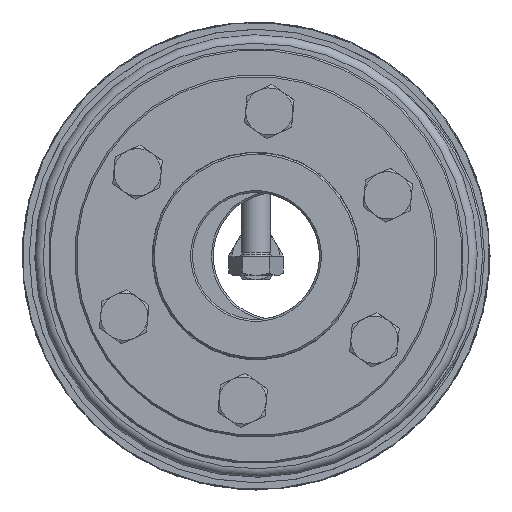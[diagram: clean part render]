
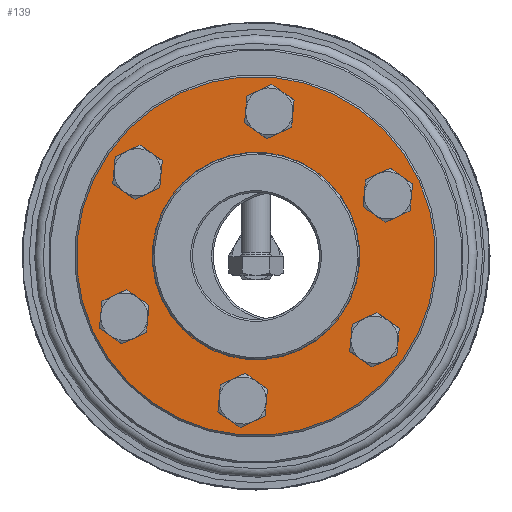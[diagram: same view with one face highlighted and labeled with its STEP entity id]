
A CAD part, left-side view. The second image highlights one B-rep face of the part: STEP entity #139.
In plain terms, the highlighted planar face has unit normal (-1, 0, 0).
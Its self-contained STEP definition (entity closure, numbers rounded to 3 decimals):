
#139 = ADVANCED_FACE( 'NONE', ( #242, #243, #244, #245, #246, #247, #248, #249 ), #250, .F. );
#242 = FACE_OUTER_BOUND( '', #382, .T. );
#243 = FACE_BOUND( '', #383, .T. );
#244 = FACE_BOUND( '', #384, .T. );
#245 = FACE_BOUND( '', #385, .T. );
#246 = FACE_BOUND( '', #386, .T. );
#247 = FACE_BOUND( '', #387, .T. );
#248 = FACE_BOUND( '', #388, .T. );
#249 = FACE_BOUND( '', #389, .T. );
#250 = PLANE( '', #390 );
#382 = EDGE_LOOP( '', ( #717 ) );
#383 = EDGE_LOOP( '', ( #718 ) );
#384 = EDGE_LOOP( '', ( #719 ) );
#385 = EDGE_LOOP( '', ( #720 ) );
#386 = EDGE_LOOP( '', ( #721 ) );
#387 = EDGE_LOOP( '', ( #722 ) );
#388 = EDGE_LOOP( '', ( #723 ) );
#389 = EDGE_LOOP( '', ( #724 ) );
#390 = AXIS2_PLACEMENT_3D( '', #725, #726, #727 );
#717 = ORIENTED_EDGE( '', *, *, #1399, .T. );
#718 = ORIENTED_EDGE( '', *, *, #1400, .T. );
#719 = ORIENTED_EDGE( '', *, *, #1401, .T. );
#720 = ORIENTED_EDGE( '', *, *, #1397, .T. );
#721 = ORIENTED_EDGE( '', *, *, #1402, .T. );
#722 = ORIENTED_EDGE( '', *, *, #1403, .T. );
#723 = ORIENTED_EDGE( '', *, *, #1404, .T. );
#724 = ORIENTED_EDGE( '', *, *, #1405, .F. );
#725 = CARTESIAN_POINT( '', ( 0., 28.5, 0. ) );
#726 = DIRECTION( '', ( 1., 0., 0. ) );
#727 = DIRECTION( '', ( 0., 1., 0. ) );
#1397 = EDGE_CURVE( 'NONE', #2040, #2040, #2041, .T. );
#1399 = EDGE_CURVE( 'NONE', #2043, #2043, #2044, .T. );
#1400 = EDGE_CURVE( 'NONE', #2045, #2045, #2046, .T. );
#1401 = EDGE_CURVE( 'NONE', #2047, #2047, #2048, .T. );
#1402 = EDGE_CURVE( 'NONE', #2049, #2049, #2050, .T. );
#1403 = EDGE_CURVE( 'NONE', #2051, #2051, #2052, .T. );
#1404 = EDGE_CURVE( 'NONE', #2053, #2053, #2054, .T. );
#1405 = EDGE_CURVE( 'NONE', #2055, #2055, #2056, .T. );
#2040 = VERTEX_POINT( '', #3301 );
#2041 = CIRCLE( '', #3302, 4.5 );
#2043 = VERTEX_POINT( '', #3304 );
#2044 = CIRCLE( '', #3305, 49.5 );
#2045 = VERTEX_POINT( '', #3306 );
#2046 = CIRCLE( '', #3307, 4.5 );
#2047 = VERTEX_POINT( '', #3308 );
#2048 = CIRCLE( '', #3309, 4.5 );
#2049 = VERTEX_POINT( '', #3310 );
#2050 = CIRCLE( '', #3311, 4.5 );
#2051 = VERTEX_POINT( '', #3312 );
#2052 = CIRCLE( '', #3313, 4.5 );
#2053 = VERTEX_POINT( '', #3314 );
#2054 = CIRCLE( '', #3315, 4.5 );
#2055 = VERTEX_POINT( '', #3316 );
#2056 = CIRCLE( '', #3317, 28.5 );
#3301 = CARTESIAN_POINT( '', ( 0., -40., -4.5 ) );
#3302 = AXIS2_PLACEMENT_3D( '', #3651, #3652, #3653 );
#3304 = CARTESIAN_POINT( '', ( 0., 0., -49.5 ) );
#3305 = AXIS2_PLACEMENT_3D( '', #3654, #3655, #3656 );
#3306 = CARTESIAN_POINT( '', ( 0., 20., 30.141 ) );
#3307 = AXIS2_PLACEMENT_3D( '', #3657, #3658, #3659 );
#3308 = CARTESIAN_POINT( '', ( 0., -20., 30.141 ) );
#3309 = AXIS2_PLACEMENT_3D( '', #3660, #3661, #3662 );
#3310 = CARTESIAN_POINT( '', ( 0., -20., -39.141 ) );
#3311 = AXIS2_PLACEMENT_3D( '', #3663, #3664, #3665 );
#3312 = CARTESIAN_POINT( '', ( 0., 20., -39.141 ) );
#3313 = AXIS2_PLACEMENT_3D( '', #3666, #3667, #3668 );
#3314 = CARTESIAN_POINT( '', ( 0., 40., -4.5 ) );
#3315 = AXIS2_PLACEMENT_3D( '', #3669, #3670, #3671 );
#3316 = CARTESIAN_POINT( '', ( 0., 0., 28.5 ) );
#3317 = AXIS2_PLACEMENT_3D( '', #3672, #3673, #3674 );
#3651 = CARTESIAN_POINT( '', ( 0., -40., 0. ) );
#3652 = DIRECTION( '', ( 1., 0., 0. ) );
#3653 = DIRECTION( '', ( 0., 0., -1. ) );
#3654 = CARTESIAN_POINT( '', ( 0., 0., 0. ) );
#3655 = DIRECTION( '', ( -1., 0., 0. ) );
#3656 = DIRECTION( '', ( 0., 0., -1. ) );
#3657 = CARTESIAN_POINT( '', ( 0., 20., 34.641 ) );
#3658 = DIRECTION( '', ( 1., 0., 0. ) );
#3659 = DIRECTION( '', ( 0., 0., -1. ) );
#3660 = CARTESIAN_POINT( '', ( 0., -20., 34.641 ) );
#3661 = DIRECTION( '', ( 1., 0., 0. ) );
#3662 = DIRECTION( '', ( 0., 0., -1. ) );
#3663 = CARTESIAN_POINT( '', ( 0., -20., -34.641 ) );
#3664 = DIRECTION( '', ( 1., 0., 0. ) );
#3665 = DIRECTION( '', ( 0., 0., -1. ) );
#3666 = CARTESIAN_POINT( '', ( 0., 20., -34.641 ) );
#3667 = DIRECTION( '', ( 1., 0., 0. ) );
#3668 = DIRECTION( '', ( 0., 0., -1. ) );
#3669 = CARTESIAN_POINT( '', ( 0., 40., 0. ) );
#3670 = DIRECTION( '', ( 1., 0., 0. ) );
#3671 = DIRECTION( '', ( 0., 0., -1. ) );
#3672 = CARTESIAN_POINT( '', ( 0., 0., 0. ) );
#3673 = DIRECTION( '', ( -1., 0., 0. ) );
#3674 = DIRECTION( '', ( 0., 0., 1. ) );
